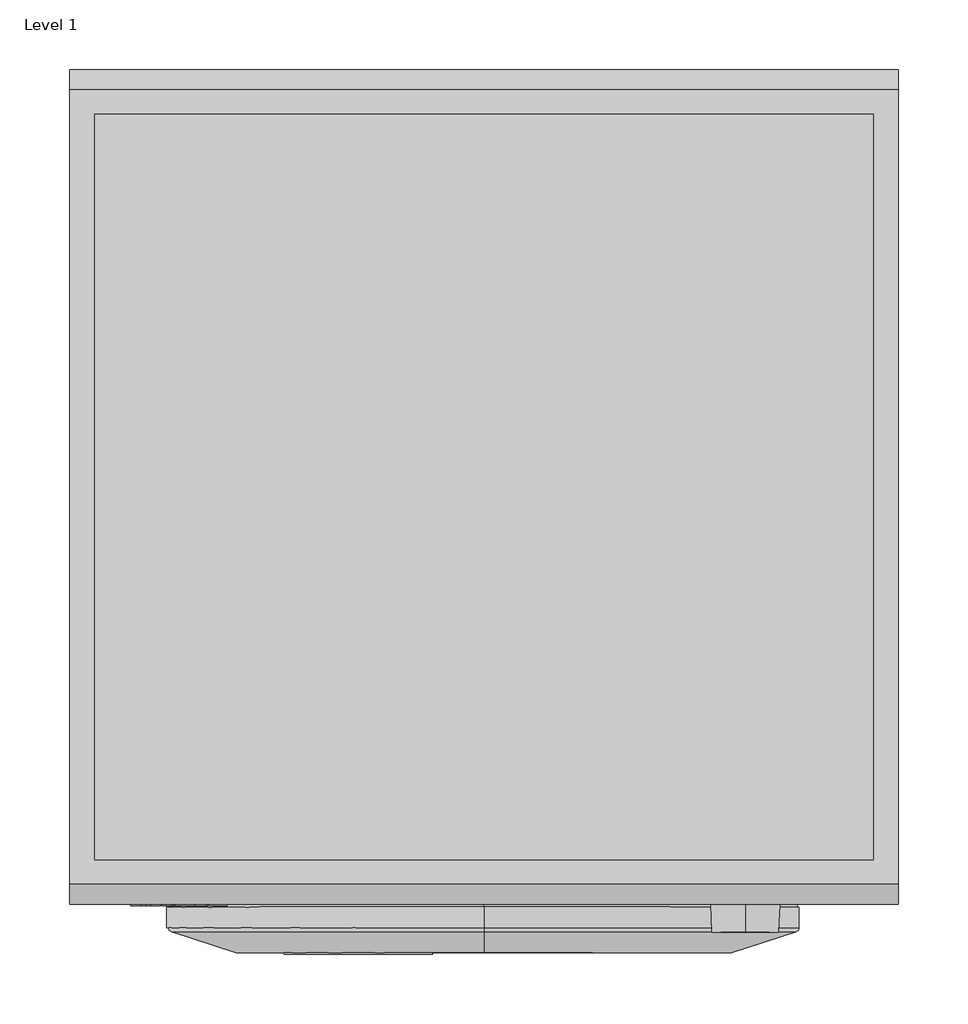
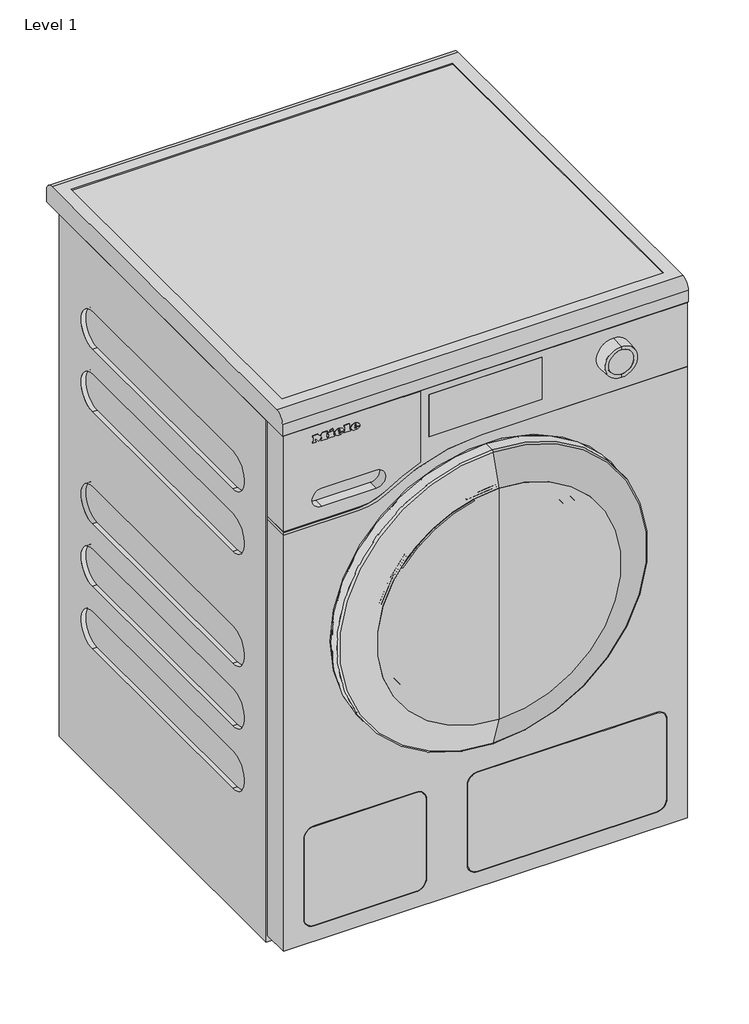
# One storey: 1 proxy.
"""IFC4 building model written with IfcOpenShell, lengths in millimetres."""

from ifc_helpers import new_model, si_unit, origin, place, context, project, spatial, transform, mapped, element, save
from components import specialty_equipment_6abb5cbe, specialty_equipment_07e524df

model = new_model("IFC4")

# Units and contexts
model_context = context("Model", 3, world=origin())
ifc_project = project(units=[si_unit("LENGTHUNIT", "METRE", prefix="MILLI")], contexts=[model_context])

# Site, building, storey
site = spatial("IfcSite", under=ifc_project)
building = spatial("IfcBuilding", under=site)
storey = spatial("IfcBuildingStorey", under=building, Name="Level 1", Elevation=0.0)

# Proxy
placement = place(None, origin())
specialty_equipment_shape = specialty_equipment_6abb5cbe(model_context)
specialty_equipment_2_shape = specialty_equipment_07e524df(model_context)
element("IfcBuildingElementProxy", 1, Name="11361120_I_WEI865WCS_LW : 11EI8655_I_11361120_WEI865WCS_LW", ObjectType="11361120_I_WEI865WCS_LW : 11EI8655_I_11361120_WEI865WCS_LW", at=placement, inside=storey, context=model_context, shape_type="MappedRepresentation", body=[
    mapped(specialty_equipment_shape, transform((0.0, 0.0, 0.0), x_axis=(1.0, 0.0, 0.0), y_axis=(0.0, 1.0, 0.0), z_axis=(0.0, 0.0, 1.0))),
    mapped(specialty_equipment_2_shape, transform((0.0, 0.0, 0.0), x_axis=(1.0, 0.0, 0.0), y_axis=(0.0, 1.0, 0.0), z_axis=(0.0, 0.0, 1.0))),
])

save(model, "model.ifc")
